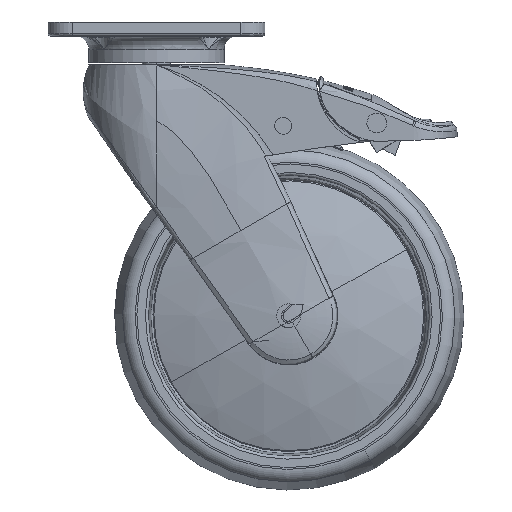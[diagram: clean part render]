
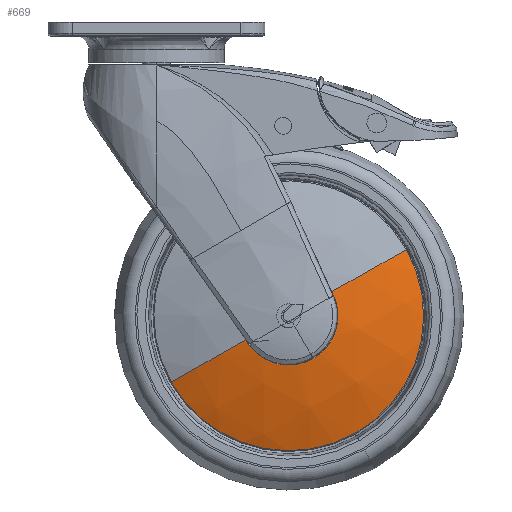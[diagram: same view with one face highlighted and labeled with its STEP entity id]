
A CAD part, front view. The second image highlights one B-rep face of the part: STEP entity #669.
In plain terms, the highlighted spherical face has radius 136.86 mm.
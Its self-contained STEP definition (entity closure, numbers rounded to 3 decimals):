
#397 = EDGE_CURVE ( 'NONE', #685, #662, #63481, .T. ) ;
#403 = ORIENTED_EDGE ( 'NONE', *, *, #397, .T. ) ;
#407 = EDGE_CURVE ( 'NONE', #662, #28927, #62744, .T. ) ;
#414 = ORIENTED_EDGE ( 'NONE', *, *, #84043, .F. ) ;
#418 = ORIENTED_EDGE ( 'NONE', *, *, #407, .T. ) ;
#650 = ORIENTED_EDGE ( 'NONE', *, *, #667, .F. ) ;
#662 = VERTEX_POINT ( 'NONE', #65374 ) ;
#666 = VERTEX_POINT ( 'NONE', #65925 ) ;
#667 = EDGE_CURVE ( 'NONE', #685, #84024, #65915, .T. ) ;
#668 = EDGE_CURVE ( 'NONE', #666, #29224, #65921, .T. ) ;
#669 = ADVANCED_FACE ( 'NONE', ( #65918 ), #65917, .T. ) ;
#676 = EDGE_CURVE ( 'NONE', #28927, #666, #65924, .T. ) ;
#685 = VERTEX_POINT ( 'NONE', #65961 ) ;
#25475 = ORIENTED_EDGE ( 'NONE', *, *, #668, .T. ) ;
#28927 = VERTEX_POINT ( 'NONE', #88440 ) ;
#29224 = VERTEX_POINT ( 'NONE', #88539 ) ;
#44875 = CARTESIAN_POINT ( 'NONE',  ( 64.853, -24.924, -12.906 ) ) ;
#44966 = CARTESIAN_POINT ( 'NONE',  ( 23.08, -24.924, -36.397 ) ) ;
#45070 = DIRECTION ( 'NONE',  ( -0.872, 0., -0.49 ) ) ;
#45071 = DIRECTION ( 'NONE',  ( 0., 1., 0. ) ) ;
#45080 = CIRCLE ( 'NONE', #45087, 47.925 ) ;
#45087 = AXIS2_PLACEMENT_3D ( 'NONE', #44966, #45071, #45070 ) ;
#53279 = ORIENTED_EDGE ( 'NONE', *, *, #676, .T. ) ;
#62744 = CIRCLE ( 'NONE', #62829, 17.476 ) ;
#62823 = DIRECTION ( 'NONE',  ( -0.872, 0., -0.49 ) ) ;
#62825 = DIRECTION ( 'NONE',  ( 0., 1., 0. ) ) ;
#62827 = CARTESIAN_POINT ( 'NONE',  ( 23.08, -32.469, -36.397 ) ) ;
#62829 = AXIS2_PLACEMENT_3D ( 'NONE', #62827, #62825, #62823 ) ;
#63476 = DIRECTION ( 'NONE',  ( 0.908, 0., 0.419 ) ) ;
#63481 = CIRCLE ( 'NONE', #63559, 135.74 ) ;
#63554 = DIRECTION ( 'NONE',  ( 0.419, 0., -0.908 ) ) ;
#63556 = CARTESIAN_POINT ( 'NONE',  ( 38.948, 103.27, -29.076 ) ) ;
#63559 = AXIS2_PLACEMENT_3D ( 'NONE', #63556, #63476, #63554 ) ;
#65374 = CARTESIAN_POINT ( 'NONE',  ( 38.948, -32.469, -29.076 ) ) ;
#65880 = DIRECTION ( 'NONE',  ( -0.558, 0., 0.83 ) ) ;
#65882 = DIRECTION ( 'NONE',  ( -0.83, 0., -0.558 ) ) ;
#65884 = AXIS2_PLACEMENT_3D ( 'NONE', #65920, #65882, #65880 ) ;
#65892 = DIRECTION ( 'NONE',  ( 0.872, 0., 0.49 ) ) ;
#65894 = DIRECTION ( 'NONE',  ( 0.49, 0., -0.872 ) ) ;
#65897 = DIRECTION ( 'NONE',  ( -0.872, 0., -0.49 ) ) ;
#65898 = DIRECTION ( 'NONE',  ( 0.49, 0., -0.872 ) ) ;
#65899 = CARTESIAN_POINT ( 'NONE',  ( 23.08, 103.27, -36.397 ) ) ;
#65901 = CARTESIAN_POINT ( 'NONE',  ( 23.08, 103.27, -36.397 ) ) ;
#65908 = DIRECTION ( 'NONE',  ( 0.872, 0., 0.49 ) ) ;
#65910 = DIRECTION ( 'NONE',  ( -0.49, 0., 0.872 ) ) ;
#65911 = CARTESIAN_POINT ( 'NONE',  ( 23.08, 103.27, -36.397 ) ) ;
#65913 = AXIS2_PLACEMENT_3D ( 'NONE', #65911, #65910, #65908 ) ;
#65915 = CIRCLE ( 'NONE', #65913, 136.86 ) ;
#65917 = SPHERICAL_SURFACE ( 'NONE', #65919, 136.86 ) ;
#65918 = FACE_OUTER_BOUND ( 'NONE', #69338, .T. ) ;
#65919 = AXIS2_PLACEMENT_3D ( 'NONE', #65901, #65894, #65892 ) ;
#65920 = CARTESIAN_POINT ( 'NONE',  ( 8.581, 103.27, -46.153 ) ) ;
#65921 = CIRCLE ( 'NONE', #65922, 136.86 ) ;
#65922 = AXIS2_PLACEMENT_3D ( 'NONE', #65899, #65898, #65897 ) ;
#65924 = CIRCLE ( 'NONE', #65884, 135.74 ) ;
#65925 = CARTESIAN_POINT ( 'NONE',  ( 7.799, -32.462, -44.991 ) ) ;
#65961 = CARTESIAN_POINT ( 'NONE',  ( 38.361, -32.462, -27.804 ) ) ;
#69338 = EDGE_LOOP ( 'NONE', ( #53279, #25475, #414, #650, #403, #418 ) ) ;
#84024 = VERTEX_POINT ( 'NONE', #44875 ) ;
#84043 = EDGE_CURVE ( 'NONE', #84024, #29224, #45080, .T. ) ;
#88440 = CARTESIAN_POINT ( 'NONE',  ( 8.581, -32.469, -46.153 ) ) ;
#88539 = CARTESIAN_POINT ( 'NONE',  ( -18.692, -24.924, -59.889 ) ) ;
